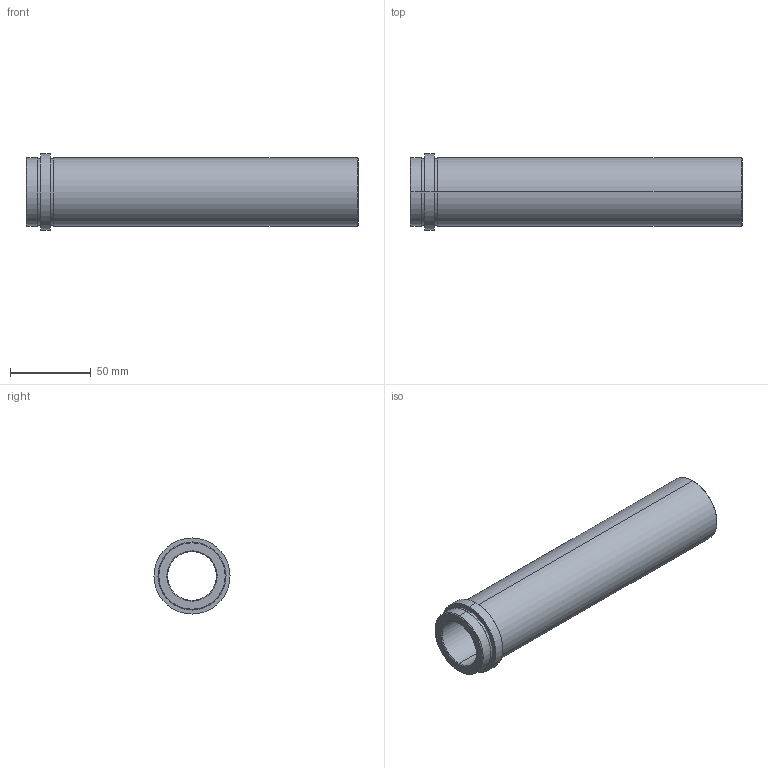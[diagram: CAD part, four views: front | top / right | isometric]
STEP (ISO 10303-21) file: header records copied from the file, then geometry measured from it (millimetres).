
FILE_DESCRIPTION( ( 'STEP AP203' ), '1' );
FILE_NAME( 'C:/Projects/D21 - 30x196.step', '2002-12-31T22:55:39', ( ' ' ), ( ' ' ), 'XStep 1.0', ' ', ' ' );
FILE_SCHEMA( ( 'CONFIG_CONTROL_DESIGN' ) );
Length unit declared in the file: metre
Products named in the file (1): 1
Bounding box: 205 x 47 x 47 mm (x, y, z)
Volume: 140889.4 mm3; surface area: 48636 mm2
Topology: 1 solids, 1 shells, 26 faces, 52 edges, 32 vertices
Faces by surface type: revolution 20, bspline 6
Entity records: 773 total; most frequent: CARTESIAN_POINT 169, DIRECTION 106, ORIENTED_EDGE 104, EDGE_CURVE 52, AXIS2_PLACEMENT_3D 33, EDGE_LOOP 32, VERTEX_POINT 32, CIRCLE 32
